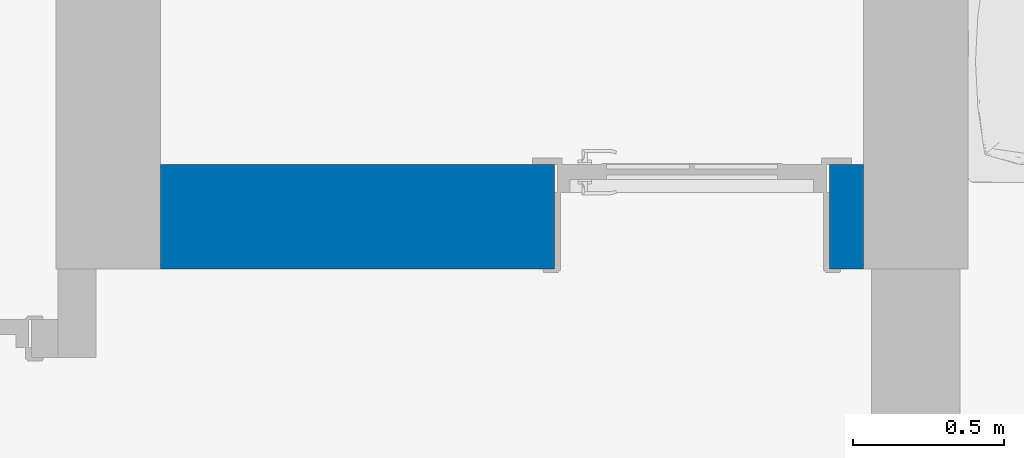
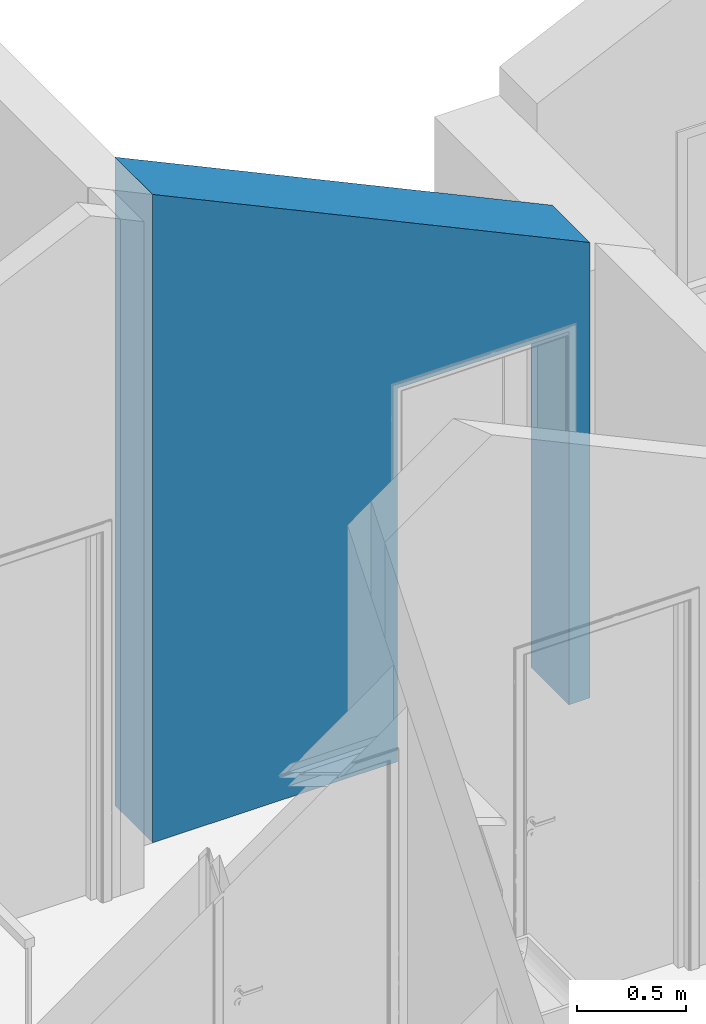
# One storey, part 25 of 44: 1 wall, 1 opening.
"""IFC2X3 building model written with IfcOpenShell, lengths in millimetres."""

from ifc_helpers import new_model, entity, si_unit, converted_unit, direction, frame, frame_2d, origin, place, context, subcontext, project, spatial, polyline, rectangle, extrude, clip, bounded_halfspace, material, layer, layer_set, layer_usage, type_object, element, save


model = new_model("IFC2X3")

# Units and contexts
model_context = context("Model", 3, precision=0.01, world=origin(), true_north=direction((0.0, 1.0)))
body_context = subcontext(model_context, "Body", "Model", "MODEL_VIEW")
ifc_project = project(units=[si_unit("LENGTHUNIT", "METRE", prefix="MILLI"), si_unit("AREAUNIT", "SQUARE_METRE"), si_unit("VOLUMEUNIT", "CUBIC_METRE"), converted_unit("PLANEANGLEUNIT", "DEGREE", entity("IfcPlaneAngleMeasure", 0.017453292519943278), si_unit("PLANEANGLEUNIT", "RADIAN"), dimensions=[0, 0, 0, 0, 0, 0, 0])], contexts=[model_context])

# Site, building, storey
site_placement = place(None, origin())
site = spatial("IfcSite", under=ifc_project, at=site_placement, Name="Default", CompositionType="ELEMENT")
building_placement = place(site_placement, origin())
building = spatial("IfcBuilding", under=site, at=building_placement, CompositionType="ELEMENT")
storey_placement = place(building_placement, frame((0.0, 0.0, 2681.0)))
storey = spatial("IfcBuildingStorey", under=building, at=storey_placement, Name="Et. 2", CompositionType="ELEMENT", Elevation=2681.0)

# Wall, opening
ifc_material_1 = material(Name="Vegg - Stående Kledning_smal - HVIT")
ifc_layer_1 = layer(ifc_material_1, 19.0)
ifc_material_2 = material(Name="Vegg - Utlekting")
ifc_layer_2 = layer(ifc_material_2, 36.0)
ifc_layer_3 = layer(ifc_material_2, 23.0)
ifc_material_3 = material(Name="Vegg - Gips - GU")
ifc_layer_4 = layer(ifc_material_3, 9.0)
ifc_material_4 = material(Name="Vegg - Stender - Isolert")
ifc_layer_5 = layer(ifc_material_4, 198.0)
ifc_material_5 = material(Name="Vegg - Påforing - Isolert")
ifc_layer_6 = layer(ifc_material_5, 48.0)
ifc_material_6 = material(Name="Vegg - Gips - Hvit")
ifc_layer_7 = layer(ifc_material_6, 13.000000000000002)
ifc_layer_set = layer_set([ifc_layer_1, ifc_layer_2, ifc_layer_3, ifc_layer_4, ifc_layer_5, ifc_layer_6, ifc_layer_7], Name="Basic Wall:23-Kv(sm)TIG-19_36_23_9_198_48_13")
ifc_layer_usage = layer_usage(ifc_layer_set, "AXIS2", "NEGATIVE", 173.0)
wall_type = type_object("IfcWallType", Name="Basic Wall:23-Kv(sm)TIG-19_36_23_9_198_48_13", PredefinedType="STANDARD", material=ifc_layer_set)
wall_placement = place(storey_placement, frame((25678.009586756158, 14822.180957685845, 0.0)))
wall = element("IfcWallStandardCase", 1, at=wall_placement, inside=storey, type_object=wall_type, material=ifc_layer_usage, Name="Basic Wall:23-Kv(sm)TIG-19_36_23_9_198_48_13", context=body_context, shape_type="Clipping", body=[
    clip(extrude(rectangle(XDim=2327.0000000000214, YDim=345.9999999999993, at=frame_2d((1163.5000000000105, 3.694822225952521e-13), x_axis=(1.0, 0.0))), origin(), (0.0, 0.0, 1.0), 3646.440370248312), bounded_halfspace(frame((0.0, -173.0, 3646.440370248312), z_axis=(0.42261826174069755, 0.0, 0.9063077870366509), x_axis=(0.0, 1.0, 0.0)), False, frame((0.0, -173.0, 3646.440370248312)), polyline([(0.0, 0.0), (2327.0, 0.0), (2327.0, 346.0), (0.0, 346.0), (0.0, 0.0)]))),
])
opening_placement = place(wall_placement, frame((1304.0, -173.0, 0.0)))
element("IfcOpeningElement", 2, at=opening_placement, cuts=wall, Name="YD Dynamiske sprosser omramming:9x21M:1", ObjectType="Opening", context=body_context, shape_type="SweptSolid", body=[
    extrude(rectangle(XDim=910.00000000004, YDim=2100.000000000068, at=frame_2d((1050.000000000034, 455.00000000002), x_axis=(0.0, 1.0))), frame((0.0, 0.0, 0.0), z_axis=(0.0, 1.0, 0.0), x_axis=(0.0, 0.0, 1.0)), (0.0, 0.0, 1.0), 346.0),
])

save(model, "model.ifc")
